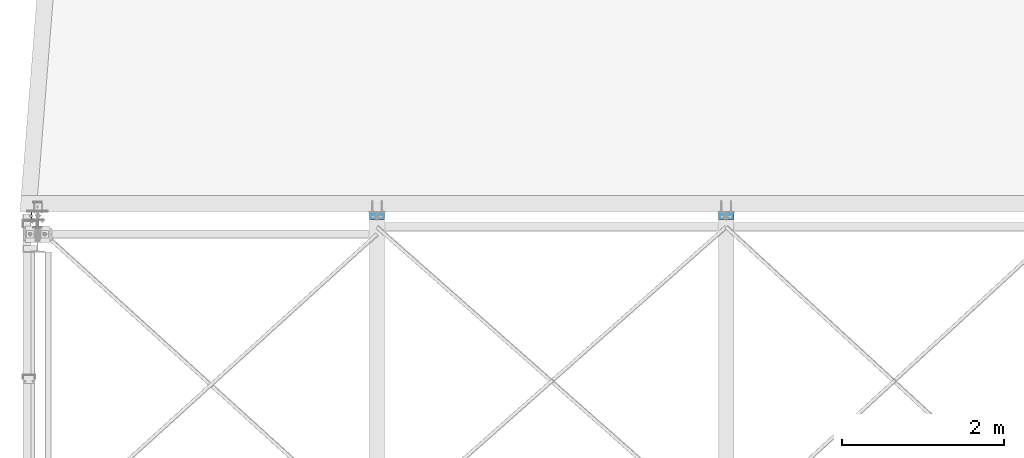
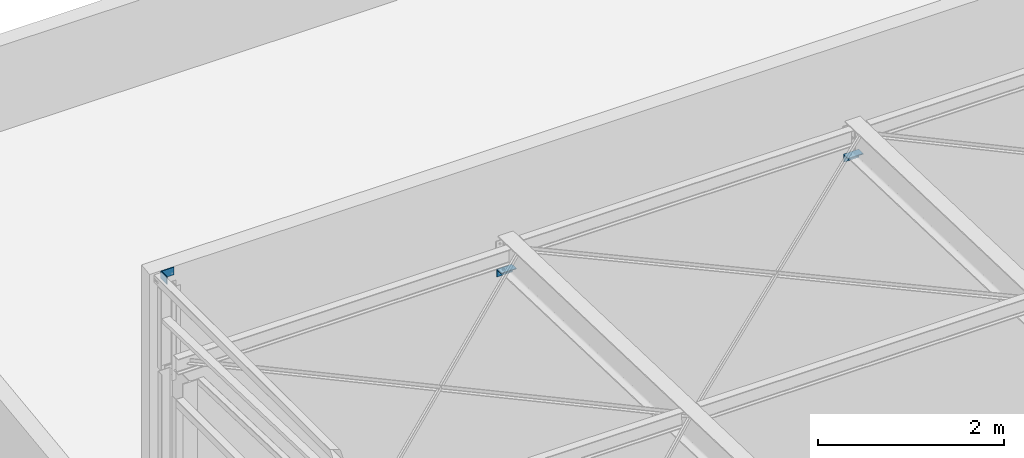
# One storey, part 122 of 123: 3 beams, 3 elements without a shape of their own.
"""IFC2X3 building model written with IfcOpenShell, lengths in millimetres."""

from ifc_helpers import new_model, si_unit, frame, origin_with_axes, place, context, subcontext, project, spatial, faceted_brep, material, type_object, element, aggregate, save


model = new_model("IFC2X3")

# Units and contexts
model_context = context("Model", 3, precision=1e-05, world=origin_with_axes())
body_context = subcontext(model_context, "Body", "Model", "MODEL_VIEW")
ifc_project = project(units=[si_unit("LENGTHUNIT", "METRE", prefix="MILLI"), si_unit("AREAUNIT", "SQUARE_METRE"), si_unit("VOLUMEUNIT", "CUBIC_METRE"), si_unit("MASSUNIT", "GRAM", prefix="KILO"), si_unit("TIMEUNIT", "SECOND"), si_unit("PLANEANGLEUNIT", "RADIAN"), si_unit("SOLIDANGLEUNIT", "STERADIAN"), si_unit("THERMODYNAMICTEMPERATUREUNIT", "DEGREE_CELSIUS"), si_unit("LUMINOUSINTENSITYUNIT", "LUMEN")], contexts=[model_context])

# Site, building, storey
site_placement = place(None, origin_with_axes())
site = spatial("IfcSite", under=ifc_project, at=site_placement, Name="Undefined", CompositionType="ELEMENT")
building_placement = place(site_placement, origin_with_axes())
building = spatial("IfcBuilding", under=site, at=building_placement, Name="Undefined", CompositionType="ELEMENT")
storey_placement = place(building_placement, origin_with_axes())
storey = spatial("IfcBuildingStorey", under=building, at=storey_placement, Name="Undefined", CompositionType="ELEMENT", Elevation=0.0)

# Assembly, beam
assembly_1_placement = place(storey_placement, origin_with_axes())
assembly_1 = element("IfcElementAssembly", 1, at=assembly_1_placement, inside=storey, Name="Steel Assembly", AssemblyPlace="NOTDEFINED", PredefinedType="RIGID_FRAME")
ifc_material = material(Name="STEEL/S235-E24")
beam_type_1 = type_object("IfcBeamType", Name="PL10*190", PredefinedType="NOTDEFINED")
beam_1_placement = place(assembly_1_placement, frame((8480.0, 15385.0, 7016.12760916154), z_axis=(-1.0, 0.0, 0.0), x_axis=(0.0, 0.0, 1.0)))
beam_1 = element("IfcBeam", 2, at=beam_1_placement, type_object=beam_type_1, material=ifc_material, Name="ATTACHE", ObjectType="PL10*190", context=body_context, shape_type="Brep", body=[
    faceted_brep([(0.0, -5.0, -95.0), (0.0, -5.0, 95.0), (0.0, 5.0, 95.0), (0.0, 5.0, -95.0), (99.9999999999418, 5.0, 95.0), (99.9999999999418, 5.0, -95.0), (90.3093257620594, -5.0, -95.0), (90.3093257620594, -5.0, 95.0), (103.141075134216, -94.9506530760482, 95.0), (103.141075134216, -94.9506530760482, -95.0), (93.1460095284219, -95.2647605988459, 95.0), (93.1460095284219, -95.2647605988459, -95.0)], [[[0, 1, 2, 3]], [[3, 2, 4, 5]], [[1, 0, 6, 7]], [[5, 4, 8, 9]], [[4, 2, 1, 7, 10, 8]], [[7, 6, 11, 10]], [[6, 0, 3, 5, 9, 11]], [[10, 11, 9, 8]]]),
])
aggregate(assembly_1, [beam_1])

assembly_2_placement = place(storey_placement, origin_with_axes())
assembly_2 = element("IfcElementAssembly", 3, at=assembly_2_placement, inside=storey, Name="Steel Assembly", AssemblyPlace="NOTDEFINED", PredefinedType="RIGID_FRAME")
beam_2_placement = place(assembly_2_placement, frame((4180.0, 15385.0, 7016.12760916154), z_axis=(-1.0, 0.0, 0.0), x_axis=(0.0, 0.0, 1.0)))
beam_2 = element("IfcBeam", 4, at=beam_2_placement, type_object=beam_type_1, material=ifc_material, Name="ATTACHE", ObjectType="PL10*190", context=body_context, shape_type="Brep", body=[
    faceted_brep([(0.0, -5.0, -95.0), (0.0, -5.0, 95.0), (0.0, 5.0, 95.0), (0.0, 5.0, -95.0), (99.9999999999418, 5.0, 95.0), (99.9999999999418, 5.0, -95.0), (90.3093257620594, -5.0, -95.0), (90.3093257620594, -5.0, 95.0), (103.141075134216, -94.9506530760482, 95.0), (103.141075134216, -94.9506530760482, -95.0), (93.1460095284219, -95.2647605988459, 95.0), (93.1460095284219, -95.2647605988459, -95.0)], [[[0, 1, 2, 3]], [[3, 2, 4, 5]], [[1, 0, 6, 7]], [[5, 4, 8, 9]], [[4, 2, 1, 7, 10, 8]], [[7, 6, 11, 10]], [[6, 0, 3, 5, 9, 11]], [[10, 11, 9, 8]]]),
])
aggregate(assembly_2, [beam_2])

assembly_3_placement = place(storey_placement, origin_with_axes())
assembly_3 = element("IfcElementAssembly", 5, at=assembly_3_placement, inside=storey, Name="Steel Assembly", AssemblyPlace="NOTDEFINED", PredefinedType="RIGID_FRAME")
beam_type_2 = type_object("IfcBeamType", Name="PL10*100", PredefinedType="NOTDEFINED")
beam_3_placement = place(assembly_3_placement, frame((80.0, 15385.0, 8500.0), z_axis=(0.0, 0.0, 1.0), x_axis=(-1.0, 0.0, 0.0)))
beam_3 = element("IfcBeam", 6, at=beam_3_placement, type_object=beam_type_2, material=ifc_material, Name="ATTACHE", ObjectType="PL10*100", context=body_context, shape_type="Brep", body=[
    faceted_brep([(0.0, -5.0, -50.0), (0.0, -5.0, 50.0), (0.0, 5.0, 50.0), (0.0, 5.0, -50.0), (150.0, 5.0, 50.0), (150.0, 5.0, -50.0), (160.0, -5.0, -50.0), (160.0, -5.0, 50.0), (150.0, 125.0, 50.0), (150.0, 125.0, -50.0), (160.0, 125.0, 50.0), (160.0, 125.0, -50.0)], [[[0, 1, 2, 3]], [[3, 2, 4, 5]], [[1, 0, 6, 7]], [[5, 4, 8, 9]], [[4, 2, 1, 7, 10, 8]], [[7, 6, 11, 10]], [[6, 0, 3, 5, 9, 11]], [[10, 11, 9, 8]]]),
])
aggregate(assembly_3, [beam_3])

save(model, "model.ifc")
